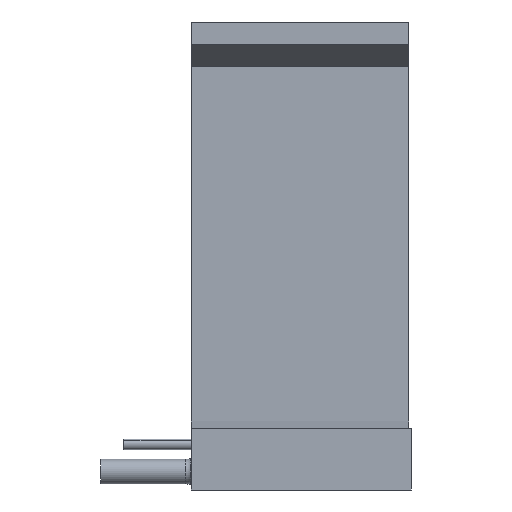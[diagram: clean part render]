
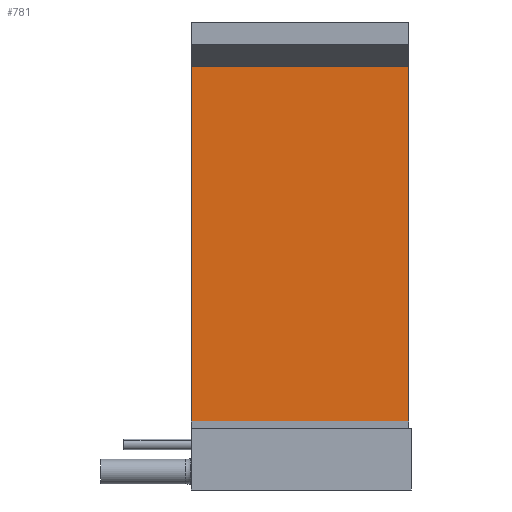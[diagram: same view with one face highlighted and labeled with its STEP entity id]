
A CAD part, left-side view. The second image highlights one B-rep face of the part: STEP entity #781.
In plain terms, the highlighted planar face has unit normal (-1, 0, 0) as drawn and (1, 0, 0) by its records, which use the part's own axes.
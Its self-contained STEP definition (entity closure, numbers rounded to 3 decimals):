
#7 = CARTESIAN_POINT ( 'NONE',  ( 21.35, 154.11, 0. ) ) ;
#231 = EDGE_CURVE ( 'NONE', #5352, #4583, #3301, .T. ) ;
#338 = VERTEX_POINT ( 'NONE', #7 ) ;
#471 = CARTESIAN_POINT ( 'NONE',  ( 21.35, 17.11, 84. ) ) ;
#621 = DIRECTION ( 'NONE',  ( 0., 0., -1. ) ) ;
#681 = LINE ( 'NONE', #4025, #3815 ) ;
#769 = CARTESIAN_POINT ( 'NONE',  ( 21.35, 154.11, 84. ) ) ;
#781 = ADVANCED_FACE ( 'NONE', ( #1402 ), #2669, .F. ) ;
#1099 = DIRECTION ( 'NONE',  ( 0., 1., 0. ) ) ;
#1256 = EDGE_CURVE ( 'NONE', #5352, #4903, #4416, .T. ) ;
#1336 = EDGE_LOOP ( 'NONE', ( #3021, #4469, #4241, #2209 ) ) ;
#1402 = FACE_OUTER_BOUND ( 'NONE', #1336, .T. ) ;
#2209 = ORIENTED_EDGE ( 'NONE', *, *, #1256, .T. ) ;
#2263 = VECTOR ( 'NONE', #621, 1000. ) ;
#2343 = EDGE_CURVE ( 'NONE', #4583, #338, #4578, .T. ) ;
#2383 = DIRECTION ( 'NONE',  ( 0., 1., 0. ) ) ;
#2539 = EDGE_CURVE ( 'NONE', #4903, #338, #681, .T. ) ;
#2669 = PLANE ( 'NONE',  #4806 ) ;
#2855 = CARTESIAN_POINT ( 'NONE',  ( 21.35, 154.11, 84. ) ) ;
#3012 = VECTOR ( 'NONE', #2383, 1000. ) ;
#3021 = ORIENTED_EDGE ( 'NONE', *, *, #2539, .T. ) ;
#3084 = CARTESIAN_POINT ( 'NONE',  ( 21.35, 17.11, 84. ) ) ;
#3301 = LINE ( 'NONE', #5413, #3012 ) ;
#3456 = DIRECTION ( 'NONE',  ( -1., 0., 0. ) ) ;
#3815 = VECTOR ( 'NONE', #1099, 1000. ) ;
#4025 = CARTESIAN_POINT ( 'NONE',  ( 21.35, 17.11, 0. ) ) ;
#4087 = VECTOR ( 'NONE', #4177, 1000. ) ;
#4177 = DIRECTION ( 'NONE',  ( 0., 0., -1. ) ) ;
#4241 = ORIENTED_EDGE ( 'NONE', *, *, #231, .F. ) ;
#4416 = LINE ( 'NONE', #4809, #2263 ) ;
#4469 = ORIENTED_EDGE ( 'NONE', *, *, #2343, .F. ) ;
#4578 = LINE ( 'NONE', #769, #4087 ) ;
#4583 = VERTEX_POINT ( 'NONE', #2855 ) ;
#4796 = DIRECTION ( 'NONE',  ( 0., 0., 1. ) ) ;
#4806 = AXIS2_PLACEMENT_3D ( 'NONE', #3084, #3456, #4796 ) ;
#4809 = CARTESIAN_POINT ( 'NONE',  ( 21.35, 17.11, 84. ) ) ;
#4903 = VERTEX_POINT ( 'NONE', #5118 ) ;
#5118 = CARTESIAN_POINT ( 'NONE',  ( 21.35, 17.11, 0. ) ) ;
#5352 = VERTEX_POINT ( 'NONE', #471 ) ;
#5413 = CARTESIAN_POINT ( 'NONE',  ( 21.35, 17.11, 84. ) ) ;
